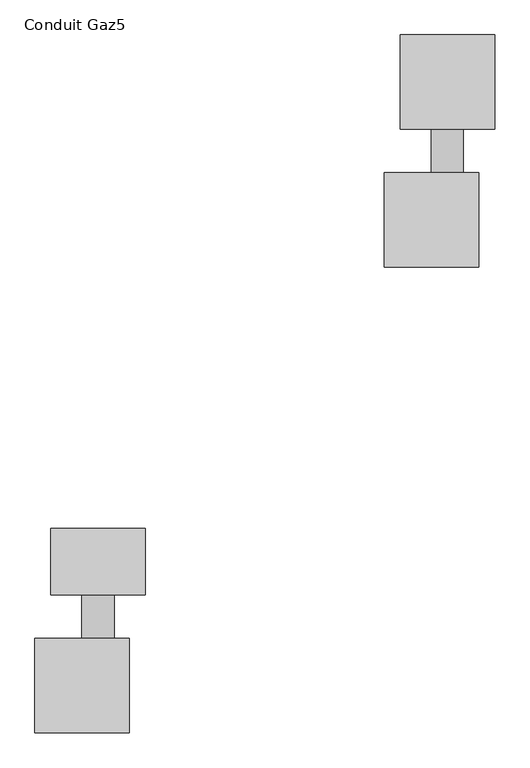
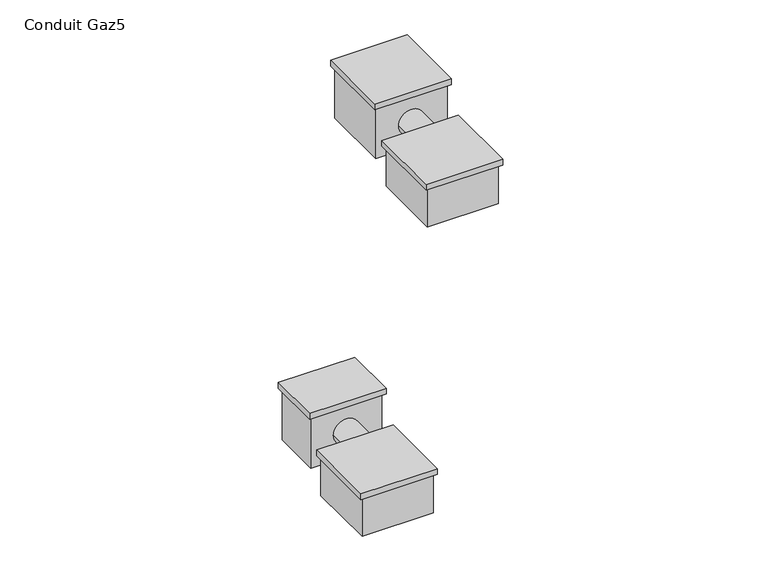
"""IFC4 building model written with IfcOpenShell, lengths in millimetres: proxy geometry, Conduit Gaz5 : Conduit Gaz."""

from ifc_helpers import new_model, si_unit, point, frame, frame_2d, origin, place, context, project, spatial, polyline, circle_curve, trimmed, segment, composite_curve, outline, extrude, source, transform, mapped, element, save


def conduit_gaz5_6ad12e83(model_context):
    return source(origin(), model_context, "Body", "SweptSolid", [
        extrude(outline(composite_curve([segment(trimmed(circle_curve(frame_2d((0.0, -100.0)), 100.0), [point((0.0, -200.0))], [point((0.0, 0.0))], False, "CARTESIAN"), True, "CONTINUOUS"), segment(trimmed(circle_curve(frame_2d((0.0, -100.0)), 100.0), [point((0.0, 0.0))], [point((0.0, -200.0))], False, "CARTESIAN"), True, "CONTINUOUS")], self_intersect=False)), frame((-43040.2167768, -2669.0763433, 4061.0831237), z_axis=(1.9013490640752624e-10, 1.0, 0.0), x_axis=(0.0, 0.0, 1.0)), (0.0, 0.0, 1.0), 310.0),
        extrude(outline(polyline([(-43533.939329, -2649.0763432), (-42943.939329, -2649.0763433), (-42943.9393291, -3239.0763433), (-43533.9393291, -3239.0763432), (-43533.939329, -2649.0763432)])), frame((0.0, 0.0, 4172.5023484), z_axis=(0.0, 0.0, 1.0), x_axis=(1.0, 0.0, 0.0)), (0.0, 0.0, 1.0), 47.2004824),
        extrude(outline(polyline([(-43513.939329, -2669.0763432), (-42963.939329, -2669.0763433), (-42963.9393291, -3219.0763433), (-43513.9393291, -3219.0763432), (-43513.939329, -2669.0763432)])), frame((0.0, 0.0, 3853.3082742), z_axis=(0.0, 0.0, 1.0), x_axis=(1.0, 0.0, 0.0)), (0.0, 0.0, 1.0), 319.1940741),
        extrude(outline(polyline([(-43433.939329, -1962.2105073), (-42843.939329, -1962.2105074), (-42843.9393291, -2379.0763433), (-43433.9393291, -2379.0763432), (-43433.939329, -1962.2105073)])), frame((0.0, 0.0, 4272.5023484), z_axis=(0.0, 0.0, 1.0), x_axis=(1.0, 0.0, 0.0)), (0.0, 0.0, 1.0), 47.2004824),
        extrude(outline(polyline([(-43413.939329, -1979.350361), (-42863.939329, -1979.3503611), (-42863.9393291, -2359.0763433), (-43413.9393291, -2359.0763432), (-43413.939329, -1979.350361)])), frame((0.0, 0.0, 3853.3082742), z_axis=(0.0, 0.0, 1.0), x_axis=(1.0, 0.0, 0.0)), (0.0, 0.0, 1.0), 419.1940741),
        extrude(outline(composite_curve([segment(trimmed(circle_curve(frame_2d((0.0, -100.0)), 100.0), [point((0.0, -200.0))], [point((0.0, 0.0))], False, "CARTESIAN"), True, "CONTINUOUS"), segment(trimmed(circle_curve(frame_2d((0.0, -100.0)), 100.0), [point((0.0, 0.0))], [point((0.0, -200.0))], False, "CARTESIAN"), True, "CONTINUOUS")], self_intersect=False)), frame((-40858.7897503, 238.8568888, 4061.0831237), z_axis=(1.9013490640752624e-10, 1.0, 0.0), x_axis=(0.0, 0.0, 1.0)), (0.0, 0.0, 1.0), 310.0),
        extrude(outline(polyline([(-41352.5123025, 258.8568889), (-40762.5123025, 258.8568888), (-40762.5123026, -331.1431112), (-41352.5123026, -331.1431111), (-41352.5123025, 258.8568889)])), frame((0.0, 0.0, 4172.5023484), z_axis=(0.0, 0.0, 1.0), x_axis=(1.0, 0.0, 0.0)), (0.0, 0.0, 1.0), 47.2004824),
        extrude(outline(polyline([(-41332.5123025, 238.8568889), (-40782.5123025, 238.8568888), (-40782.5123026, -311.1431112), (-41332.5123026, -311.1431111), (-41332.5123025, 238.8568889)])), frame((0.0, 0.0, 3853.3082742), z_axis=(0.0, 0.0, 1.0), x_axis=(1.0, 0.0, 0.0)), (0.0, 0.0, 1.0), 319.1940741),
        extrude(outline(polyline([(-41252.5123025, 1118.8568889), (-40662.5123025, 1118.8568888), (-40662.5123026, 528.8568888), (-41252.5123026, 528.8568889), (-41252.5123025, 1118.8568889)])), frame((0.0, 0.0, 4272.5023484), z_axis=(0.0, 0.0, 1.0), x_axis=(1.0, 0.0, 0.0)), (0.0, 0.0, 1.0), 47.2004824),
        extrude(outline(polyline([(-41232.5123025, 1098.8568889), (-40682.5123025, 1098.8568888), (-40682.5123026, 548.8568888), (-41232.5123026, 548.8568889), (-41232.5123025, 1098.8568889)])), frame((0.0, 0.0, 3853.3082742), z_axis=(0.0, 0.0, 1.0), x_axis=(1.0, 0.0, 0.0)), (0.0, 0.0, 1.0), 419.1940741),
    ])


if __name__ == "__main__":
    model = new_model("IFC4")
    model_context = context("Model", 3, world=origin())
    ifc_project = project(units=[si_unit("LENGTHUNIT", "METRE", prefix="MILLI")], contexts=[model_context])
    site = spatial("IfcSite", under=ifc_project)
    building = spatial("IfcBuilding", under=site)
    placement = place(None, origin())
    conduit_gaz5_shape = conduit_gaz5_6ad12e83(model_context)
    element("IfcBuildingElementProxy", 1, Name="Conduit Gaz5 : Conduit Gaz", ObjectType="Conduit Gaz5 : Conduit Gaz", at=placement, inside=building, context=model_context, shape_type="MappedRepresentation", body=[
        mapped(conduit_gaz5_shape, transform((0.0, 0.0, 0.0), x_axis=(1.0, 0.0, 0.0), y_axis=(0.0, 1.0, 0.0), z_axis=(0.0, 0.0, 1.0))),
    ])
    save(model, "model.ifc")
